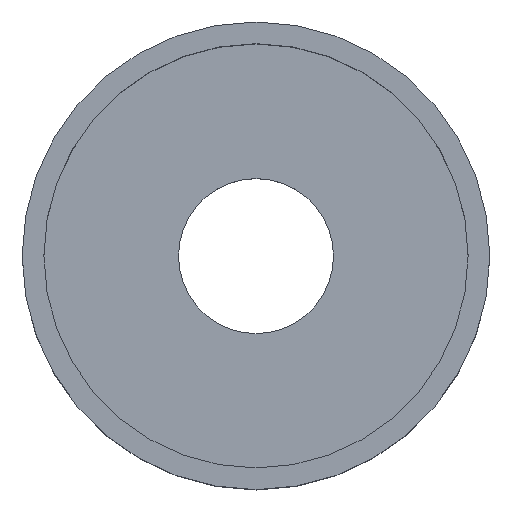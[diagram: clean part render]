
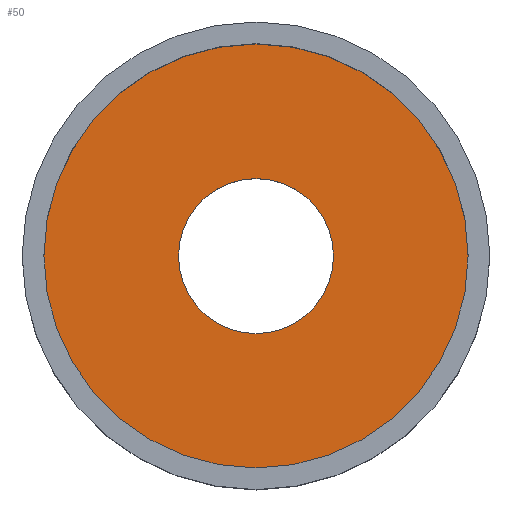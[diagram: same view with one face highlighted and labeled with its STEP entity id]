
A CAD part, top view. The second image highlights one B-rep face of the part: STEP entity #50.
In plain terms, the highlighted planar face has unit normal (0, 0, 1).
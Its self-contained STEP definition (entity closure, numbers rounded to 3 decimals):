
#31 = VERTEX_POINT('',#32);
#32 = CARTESIAN_POINT('',(4.521,0.,2.403));
#38 = EDGE_CURVE('',#31,#31,#39,.T.);
#39 = CIRCLE('',#40,4.521);
#40 = AXIS2_PLACEMENT_3D('',#41,#42,#43);
#41 = CARTESIAN_POINT('',(0.,0.,2.403));
#42 = DIRECTION('',(0.,0.,-1.));
#43 = DIRECTION('',(1.,0.,0.));
#50 = ADVANCED_FACE('',(#51,#54),#65,.F.);
#51 = FACE_BOUND('',#52,.T.);
#52 = EDGE_LOOP('',(#53));
#53 = ORIENTED_EDGE('',*,*,#38,.T.);
#54 = FACE_BOUND('',#55,.T.);
#55 = EDGE_LOOP('',(#56));
#56 = ORIENTED_EDGE('',*,*,#57,.F.);
#57 = EDGE_CURVE('',#58,#58,#60,.T.);
#58 = VERTEX_POINT('',#59);
#59 = CARTESIAN_POINT('',(12.375,0.,2.403));
#60 = CIRCLE('',#61,12.375);
#61 = AXIS2_PLACEMENT_3D('',#62,#63,#64);
#62 = CARTESIAN_POINT('',(0.,0.,2.403));
#63 = DIRECTION('',(0.,0.,-1.));
#64 = DIRECTION('',(1.,0.,0.));
#65 = PLANE('',#66);
#66 = AXIS2_PLACEMENT_3D('',#67,#68,#69);
#67 = CARTESIAN_POINT('',(0.,0.,2.403));
#68 = DIRECTION('',(0.,0.,-1.));
#69 = DIRECTION('',(1.,0.,-0.));
